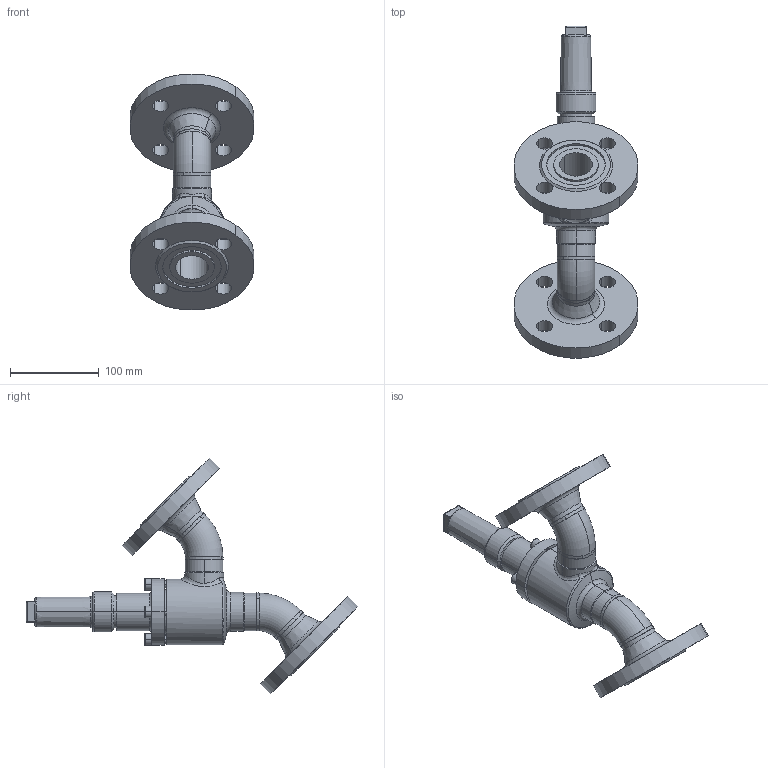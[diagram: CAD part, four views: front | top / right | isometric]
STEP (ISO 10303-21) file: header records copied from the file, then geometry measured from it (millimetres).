
FILE_DESCRIPTION (( 'STEP AP214' ), '1' );
FILE_NAME ('RVA29320D13-DN032_DIN-FL-N_PS40.STEP', '2006-04-28T05:35:49', ( 'Herr Grams' ), ( 'AWP GmbH' ), 'SwSTEP 2.0', 'SolidWorks 2002296', '' );
FILE_SCHEMA (( 'AUTOMOTIVE_DESIGN' ));
Length unit declared in the file: millimetre
Products named in the file (14): RVA29320D13-DN032_DIN-FL-N_PS40; Kappe16402_DN010-32_Standard; RVA29300E13_Deck-Schr-DN25-32_Standard; Deckel29300E13-DN25-32_Standard; Zylinderschraube-DIN912_M 8x 25; Gehäuse-kpl16320-DN032_DIN_PS40_Standard; Gehäuse-kpl16300-DN032_R1_Standard; Gehäuse16400-DN032_Standard; Rohrbogen 45°_R1-Fase_Rohrbogen-DN032-45°; bead16300-Geh-032-1_Standard; bead16300-Geh-032-2_Standard; Flansch-DIN2635-Nut_PS40_DIN-Flansch-DN032_PS40-Nut; bead16320-DN032-2_Standard; bead16320-DN032-1_Standard
Assembly tree (18 placements, depth 4):
  RVA29320D13-DN032_DIN-FL-N_PS40
    Gehäuse-kpl16320-DN032_DIN_PS40_Standard
      bead16320-DN032-1_Standard
      Gehäuse-kpl16300-DN032_R1_Standard
        bead16300-Geh-032-1_Standard
        bead16300-Geh-032-2_Standard
        Gehäuse16400-DN032_Standard
        Rohrbogen 45°_R1-Fase_Rohrbogen-DN032-45°  x2
      bead16320-DN032-2_Standard
      Flansch-DIN2635-Nut_PS40_DIN-Flansch-DN032_PS40-Nut  x2
    RVA29300E13_Deck-Schr-DN25-32_Standard
      Deckel29300E13-DN25-32_Standard
      Zylinderschraube-DIN912_M 8x 25  x4
    Kappe16402_DN010-32_Standard
Bounding box: 139.47 x 373.74 x 265.6 mm (x, y, z)
Volume: 915384.9 mm3; surface area: 212349.1 mm2
Topology: 15 solids, 15 shells, 315 faces, 727 edges, 454 vertices
Faces by surface type: cylinder 112, plane 84, cone 66, torus 35, bspline 18
Entity records: 53993 total; most frequent: CARTESIAN_POINT 48238, DIRECTION 1072, ORIENTED_EDGE 1030, EDGE_CURVE 515, AXIS2_PLACEMENT_3D 455, VERTEX_POINT 322, EDGE_LOOP 257, CIRCLE 230
